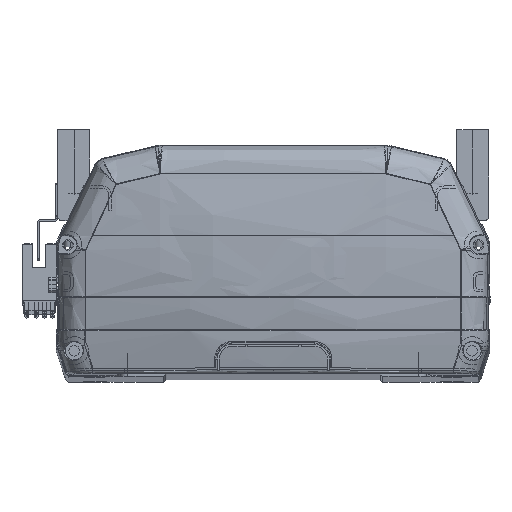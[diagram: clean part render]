
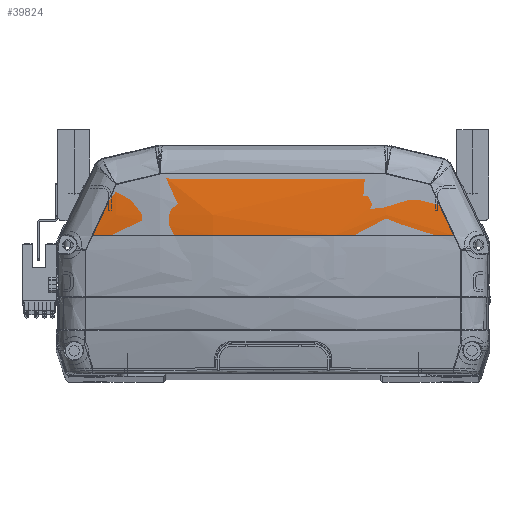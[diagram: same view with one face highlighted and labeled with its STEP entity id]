
A CAD part, top view. The second image highlights one B-rep face of the part: STEP entity #39824.
In plain terms, the highlighted toroidal (fillet/blend) face has major radius 312.5 mm and minor radius 572.4 mm.
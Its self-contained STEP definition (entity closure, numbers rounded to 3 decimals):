
#2663 = DIRECTION ( 'NONE',  ( 1., 0., 0. ) ) ;
#3483 = AXIS2_PLACEMENT_3D ( 'NONE', #31969, #2663, #34915 ) ;
#3575 = CARTESIAN_POINT ( 'NONE',  ( -64.813, 68.545, -4.11 ) ) ;
#4944 = ORIENTED_EDGE ( 'NONE', *, *, #12559, .F. ) ;
#5833 = VERTEX_POINT ( 'NONE', #9447 ) ;
#6142 = CARTESIAN_POINT ( 'NONE',  ( 71.027, 55.096, -4.524 ) ) ;
#6289 = VERTEX_POINT ( 'NONE', #33226 ) ;
#7877 = DIRECTION ( 'NONE',  ( 0., 1., 0. ) ) ;
#8002 = EDGE_CURVE ( 'NONE', #29132, #6289, #22385, .T. ) ;
#8013 = CARTESIAN_POINT ( 'NONE',  ( 0., 55.096, -572.5 ) ) ;
#8914 = CARTESIAN_POINT ( 'NONE',  ( -61.718, 75.278, -4.232 ) ) ;
#9447 = CARTESIAN_POINT ( 'NONE',  ( 44.331, 79.443, -2.97 ) ) ;
#9811 = EDGE_LOOP ( 'NONE', ( #21000, #16622, #15862, #4944, #39337, #22213 ) ) ;
#10133 = CARTESIAN_POINT ( 'NONE',  ( -63.264, 71.911, -4.135 ) ) ;
#11419 = CARTESIAN_POINT ( 'NONE',  ( 44.331, 79.443, -2.97 ) ) ;
#12559 = EDGE_CURVE ( 'NONE', #5833, #18295, #13386, .T. ) ;
#12791 = CARTESIAN_POINT ( 'NONE',  ( 61.718, 75.278, -4.232 ) ) ;
#13039 = EDGE_CURVE ( 'NONE', #6289, #5833, #17980, .T. ) ;
#13386 = B_SPLINE_CURVE_WITH_KNOTS ( 'NONE', 3,
 ( #11419, #14698, #24817, #21558 ),
 .UNSPECIFIED., .F., .F.,
 ( 4, 4 ),
 ( 0., 0.018 ),
 .UNSPECIFIED. ) ;
#13679 = AXIS2_PLACEMENT_3D ( 'NONE', #8013, #7877, #36975 ) ;
#13888 = CARTESIAN_POINT ( 'NONE',  ( 71.027, 55.096, -4.524 ) ) ;
#14698 = CARTESIAN_POINT ( 'NONE',  ( 50.132, 78.049, -3.29 ) ) ;
#14741 = CARTESIAN_POINT ( 'NONE',  ( -61.718, 75.278, -4.232 ) ) ;
#15167 = VERTEX_POINT ( 'NONE', #39776 ) ;
#15334 = CARTESIAN_POINT ( 'NONE',  ( 14.805, 79.361, -1.235 ) ) ;
#15862 = ORIENTED_EDGE ( 'NONE', *, *, #24910, .F. ) ;
#16622 = ORIENTED_EDGE ( 'NONE', *, *, #30340, .T. ) ;
#17980 = B_SPLINE_CURVE_WITH_KNOTS ( 'NONE', 3,
 ( #41566, #34876, #38283, #15334, #18641, #24907 ),
 .UNSPECIFIED., .F., .F.,
 ( 4, 2, 4 ),
 ( 0., 0.044, 0.089 ),
 .UNSPECIFIED. ) ;
#18295 = VERTEX_POINT ( 'NONE', #12791 ) ;
#18641 = CARTESIAN_POINT ( 'NONE',  ( 29.579, 79.389, -1.814 ) ) ;
#18967 = VERTEX_POINT ( 'NONE', #6142 ) ;
#19101 = B_SPLINE_CURVE_WITH_KNOTS ( 'NONE', 3,
 ( #39569, #30490, #26768, #13888 ),
 .UNSPECIFIED., .F., .F.,
 ( 4, 4 ),
 ( 0., 0.022 ),
 .UNSPECIFIED. ) ;
#19859 = CARTESIAN_POINT ( 'NONE',  ( -67.917, 61.816, -4.208 ) ) ;
#20607 = FACE_OUTER_BOUND ( 'NONE', #9811, .T. ) ;
#20629 = CARTESIAN_POINT ( 'NONE',  ( -55.929, 76.661, -3.711 ) ) ;
#20712 = B_SPLINE_CURVE_WITH_KNOTS ( 'NONE', 3,
 ( #36071, #33257, #19859, #3575, #10133, #32983 ),
 .UNSPECIFIED., .F., .F.,
 ( 4, 2, 4 ),
 ( 0.006, 0.017, 0.029 ),
 .UNSPECIFIED. ) ;
#21000 = ORIENTED_EDGE ( 'NONE', *, *, #24138, .F. ) ;
#21098 = TOROIDAL_SURFACE ( 'NONE', #3483, -312.5, 572.4 ) ;
#21558 = CARTESIAN_POINT ( 'NONE',  ( 61.718, 75.278, -4.232 ) ) ;
#22213 = ORIENTED_EDGE ( 'NONE', *, *, #8002, .F. ) ;
#22385 = B_SPLINE_CURVE_WITH_KNOTS ( 'NONE', 3,
 ( #14741, #20629, #33895, #37285 ),
 .UNSPECIFIED., .F., .F.,
 ( 4, 4 ),
 ( 0., 0.018 ),
 .UNSPECIFIED. ) ;
#24138 = EDGE_CURVE ( 'NONE', #15167, #29132, #20712, .T. ) ;
#24817 = CARTESIAN_POINT ( 'NONE',  ( 55.929, 76.66, -3.711 ) ) ;
#24907 = CARTESIAN_POINT ( 'NONE',  ( 44.331, 79.443, -2.97 ) ) ;
#24910 = EDGE_CURVE ( 'NONE', #18295, #18967, #19101, .T. ) ;
#26768 = CARTESIAN_POINT ( 'NONE',  ( 67.917, 61.809, -4.135 ) ) ;
#29132 = VERTEX_POINT ( 'NONE', #8914 ) ;
#30340 = EDGE_CURVE ( 'NONE', #15167, #18967, #34152, .T. ) ;
#30490 = CARTESIAN_POINT ( 'NONE',  ( 64.811, 68.545, -4.037 ) ) ;
#31969 = CARTESIAN_POINT ( 'NONE',  ( 0., 55.096, -260. ) ) ;
#32983 = CARTESIAN_POINT ( 'NONE',  ( -61.718, 75.278, -4.232 ) ) ;
#33226 = CARTESIAN_POINT ( 'NONE',  ( -44.331, 79.443, -2.97 ) ) ;
#33257 = CARTESIAN_POINT ( 'NONE',  ( -69.472, 58.454, -4.329 ) ) ;
#33895 = CARTESIAN_POINT ( 'NONE',  ( -50.132, 78.049, -3.29 ) ) ;
#34152 = CIRCLE ( 'NONE', #13679, 572.4 ) ;
#34876 = CARTESIAN_POINT ( 'NONE',  ( -29.579, 79.39, -1.814 ) ) ;
#34915 = DIRECTION ( 'NONE',  ( 0., 0., -1. ) ) ;
#36071 = CARTESIAN_POINT ( 'NONE',  ( -71.027, 55.096, -4.524 ) ) ;
#36975 = DIRECTION ( 'NONE',  ( 0., 0., 1. ) ) ;
#37285 = CARTESIAN_POINT ( 'NONE',  ( -44.331, 79.443, -2.97 ) ) ;
#38283 = CARTESIAN_POINT ( 'NONE',  ( -14.788, 79.361, -1.235 ) ) ;
#39337 = ORIENTED_EDGE ( 'NONE', *, *, #13039, .F. ) ;
#39569 = CARTESIAN_POINT ( 'NONE',  ( 61.718, 75.278, -4.232 ) ) ;
#39776 = CARTESIAN_POINT ( 'NONE',  ( -71.027, 55.096, -4.524 ) ) ;
#39824 = ADVANCED_FACE ( 'NONE', ( #20607 ), #21098, .T. ) ;
#41566 = CARTESIAN_POINT ( 'NONE',  ( -44.331, 79.443, -2.97 ) ) ;
